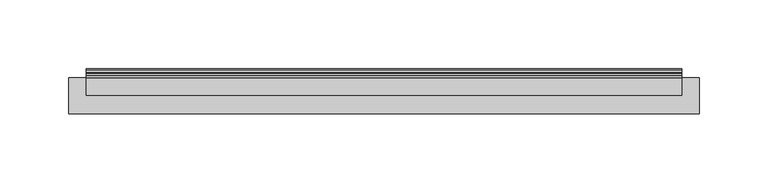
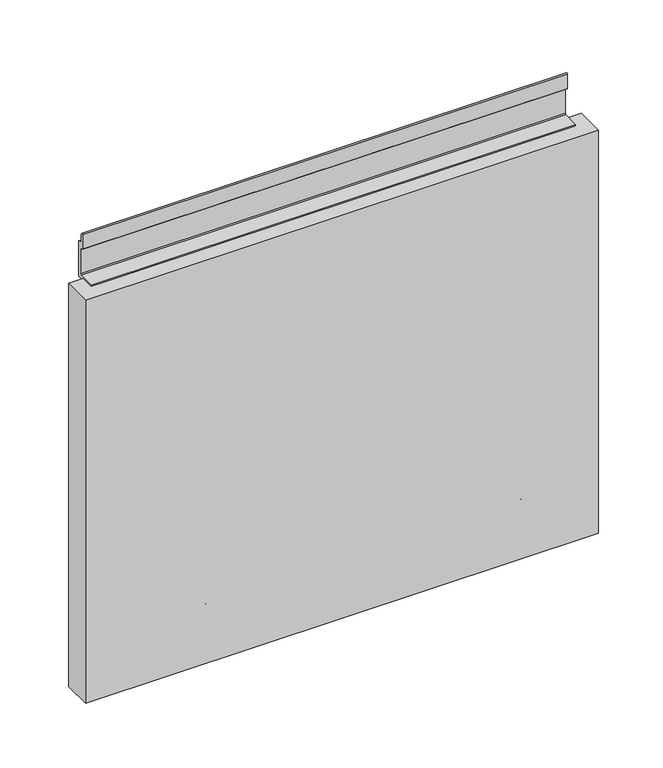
"""IFC4 building model written with IfcOpenShell, lengths in millimetres: furniture geometry, Geiger_GeigerOneCasegoods_WallTileAcceptsTileAboveFabric : Fabric 18Wx 1.25Dx 15H."""

from ifc_helpers import new_model, si_unit, point, frame, frame_2d, origin, origin_with_axes, place, context, project, spatial, polyline, circle_curve, trimmed, segment, composite_curve, outline, extrude, source, transform, mapped, element, save


def furniture_9cfcc0bf(model_context):
    return source(origin(), model_context, "Body", "SweptSolid", [
        extrude(outline(composite_curve([segment(polyline([(-3.5052, 46.3366), (-2.6924, 45.5238), (-0.8128, 45.5238), (0.0, 44.7364), (0.0, 31.3197095)]), True, "CONTINUOUS"), segment(trimmed(circle_curve(frame_2d((-0.7973236, 31.3197095)), 0.7973236), [point((0.0, 31.3197095))], [point((-1.3611166, 30.7559166))], False, "CARTESIAN"), True, "CONTINUOUS"), segment(polyline([(-1.3611166, 30.7559166), (-2.8956, 32.2904), (-2.8956, 39.2246), (-3.7084, 40.012), (-5.6134, 40.012), (-6.4008, 40.8248), (-6.4008, 72.524), (-5.1054, 72.524), (-3.5052, 70.9238), (-3.5052, 46.3366)]), True, "CONTINUOUS")], self_intersect=False)), frame((50.0016, 0.0, 0.0), z_axis=(1.0, 0.0, 0.0), x_axis=(0.0, 1.0, 0.0)), (0.0, 0.0, 1.0), 75.9968),
        extrude(outline(polyline([(457.2, -6.4008), (457.2, -32.4008), (0.0, -32.4008), (0.0, -6.4008), (457.2, -6.4008)])), origin_with_axes(), (0.0, 0.0, 1.0), 380.0),
        extrude(outline(composite_curve([segment(polyline([(-3.5052, 46.3366), (-2.6924, 45.5238), (-0.8128, 45.5238), (0.0, 44.7364), (0.0, 31.3197095)]), True, "CONTINUOUS"), segment(trimmed(circle_curve(frame_2d((-0.7973236, 31.3197095)), 0.7973236), [point((0.0, 31.3197095))], [point((-1.3611166, 30.7559166))], False, "CARTESIAN"), True, "CONTINUOUS"), segment(polyline([(-1.3611166, 30.7559166), (-2.8956, 32.2904), (-2.8956, 39.2246), (-3.7084, 40.012), (-5.6134, 40.012), (-6.4008, 40.8248), (-6.4008, 72.524), (-5.1054, 72.524), (-3.5052, 70.9238), (-3.5052, 46.3366)]), True, "CONTINUOUS")], self_intersect=False)), frame((331.2, 0.0, 0.0), z_axis=(1.0, 0.0, 0.0), x_axis=(0.0, 1.0, 0.0)), (0.0, 0.0, 1.0), 76.0),
        extrude(outline(composite_curve([segment(polyline([(-3.5052, 420.2336), (-3.5052, 413.2994), (-2.7178, 412.512), (-0.8128, 412.512), (0.0, 411.6992), (0.0, 378.3998), (-2.6924, 378.3998), (-3.5052, 377.6124), (-3.5052, 363.8964), (-2.6924, 363.109), (0.0, 363.109), (0.0, 360.188), (-5.6134, 360.188), (-6.4008, 361.0008), (-6.4008, 380.0), (-18.9992, 380.0), (-18.9992, 381.6002), (-3.7084, 381.6002), (-2.8956, 382.3876), (-2.8956, 406.2128), (-3.7084, 407.0002), (-5.6134, 407.0002), (-6.4008, 407.813), (-6.4008, 421.2057925)]), True, "CONTINUOUS"), segment(trimmed(circle_curve(frame_2d((-5.6040985, 421.2057925)), 0.7967015), [point((-6.4008, 421.2057925))], [point((-5.0407455, 421.7691455))], False, "CARTESIAN"), True, "CONTINUOUS"), segment(polyline([(-5.0407455, 421.7691455), (-3.5052, 420.2336)]), True, "CONTINUOUS")], self_intersect=False)), frame((12.5, 0.0, 0.0), z_axis=(1.0, 0.0, 0.0), x_axis=(0.0, 1.0, 0.0)), (0.0, 0.0, 1.0), 432.2),
    ])


if __name__ == "__main__":
    model = new_model("IFC4")
    model_context = context("Model", 3, world=origin())
    ifc_project = project(units=[si_unit("LENGTHUNIT", "METRE", prefix="MILLI")], contexts=[model_context])
    site = spatial("IfcSite", under=ifc_project)
    building = spatial("IfcBuilding", under=site)
    placement = place(None, origin())
    furniture_shape = furniture_9cfcc0bf(model_context)
    element("IfcFurniture", 1, ObjectType="Geiger_GeigerOneCasegoods_WallTileAcceptsTileAboveFabric : Fabric 18Wx 1.25Dx 15H", at=placement, inside=building, context=model_context, shape_type="MappedRepresentation", body=[
        mapped(furniture_shape, transform((0.0, 0.0, 0.0), x_axis=(1.0, 0.0, 0.0), y_axis=(0.0, 1.0, 0.0), z_axis=(0.0, 0.0, 1.0))),
    ])
    save(model, "model.ifc")
